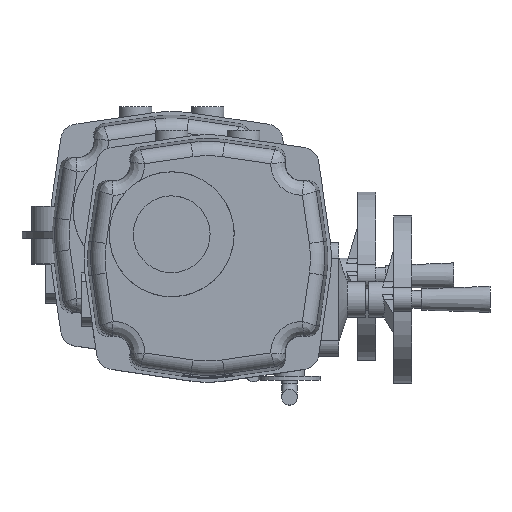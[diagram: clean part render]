
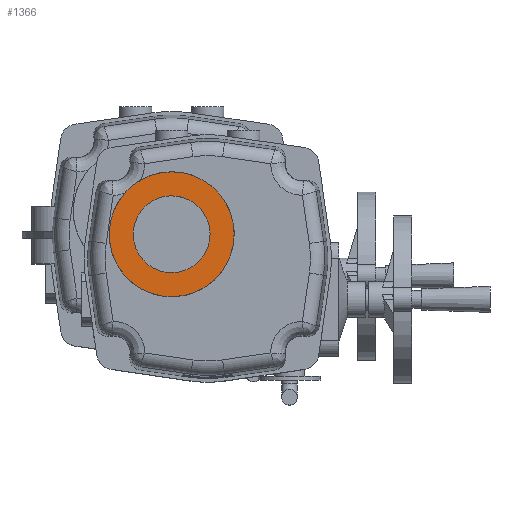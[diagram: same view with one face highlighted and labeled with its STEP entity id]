
A CAD part, top view. The second image highlights one B-rep face of the part: STEP entity #1366.
In plain terms, the highlighted planar face has unit normal (0, 0, 1).
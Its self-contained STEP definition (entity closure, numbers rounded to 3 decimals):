
#1366 = ADVANCED_FACE( '', ( #2995, #2996 ), #2997, .F. );
#2995 = FACE_BOUND( '', #8002, .T. );
#2996 = FACE_OUTER_BOUND( '', #8003, .T. );
#2997 = PLANE( '', #8004 );
#8002 = EDGE_LOOP( '', ( #13529 ) );
#8003 = EDGE_LOOP( '', ( #13530 ) );
#8004 = AXIS2_PLACEMENT_3D( '', #13531, #13532, #13533 );
#13529 = ORIENTED_EDGE( '', *, *, #17236, .T. );
#13530 = ORIENTED_EDGE( '', *, *, #17248, .F. );
#13531 = CARTESIAN_POINT( '', ( -30., 20., 132. ) );
#13532 = DIRECTION( '', ( 0., 0., -1. ) );
#13533 = DIRECTION( '', ( -1., 0., 0. ) );
#17236 = EDGE_CURVE( '', #20179, #20179, #20180, .T. );
#17248 = EDGE_CURVE( '', #20196, #20196, #20197, .T. );
#20179 = VERTEX_POINT( '', #29883 );
#20180 = CIRCLE( '', #29884, 32. );
#20196 = VERTEX_POINT( '', #29903 );
#20197 = CIRCLE( '', #29904, 52. );
#29883 = CARTESIAN_POINT( '', ( -34.615, -11.666, 132. ) );
#29884 = AXIS2_PLACEMENT_3D( '', #33275, #33276, #33277 );
#29903 = CARTESIAN_POINT( '', ( -37.499, -31.456, 132. ) );
#29904 = AXIS2_PLACEMENT_3D( '', #33290, #33291, #33292 );
#33275 = CARTESIAN_POINT( '', ( -30., 20., 132. ) );
#33276 = DIRECTION( '', ( 0., 0., -1. ) );
#33277 = DIRECTION( '', ( -0.144, -0.99, 0. ) );
#33290 = CARTESIAN_POINT( '', ( -30., 20., 132. ) );
#33291 = DIRECTION( '', ( 0., 0., -1. ) );
#33292 = DIRECTION( '', ( -0.144, -0.99, 0. ) );
